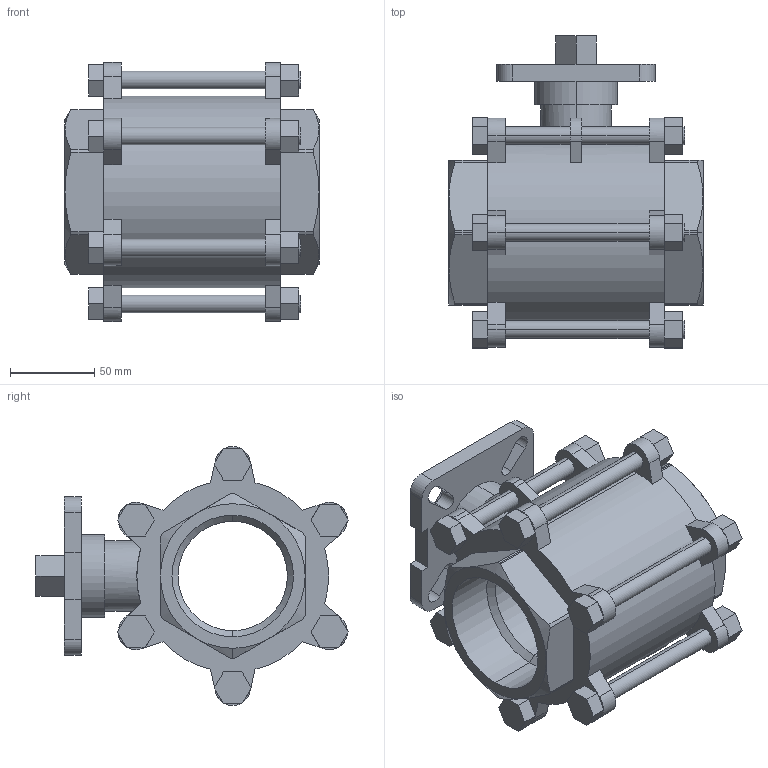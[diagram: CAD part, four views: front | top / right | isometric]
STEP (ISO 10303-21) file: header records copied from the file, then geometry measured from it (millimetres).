
FILE_DESCRIPTION (( 'STEP AP203' ), '1' );
FILE_NAME ('C3.622I0650FVPB0.STEP', '2018-10-12T14:40:10', ( '' ), ( '' ), 'SwSTEP 2.0', 'SolidWorks 2014', '' );
FILE_SCHEMA (( 'CONFIG_CONTROL_DESIGN' ));
Length unit declared in the file: millimetre
Products named in the file (1): C3.622I0650FVPB0
Bounding box: 151 x 185.56 x 154 mm (x, y, z)
Volume: 1084877.4 mm3; surface area: 158724.8 mm2
Topology: 1 solids, 1 shells, 371 faces, 954 edges, 597 vertices
Faces by surface type: plane 262, cylinder 91, cone 18
Entity records: 11484 total; most frequent: CARTESIAN_POINT 2199, DIRECTION 1939, ORIENTED_EDGE 1908, EDGE_CURVE 954, VECTOR 653, LINE 653, AXIS2_PLACEMENT_3D 643, VERTEX_POINT 597
